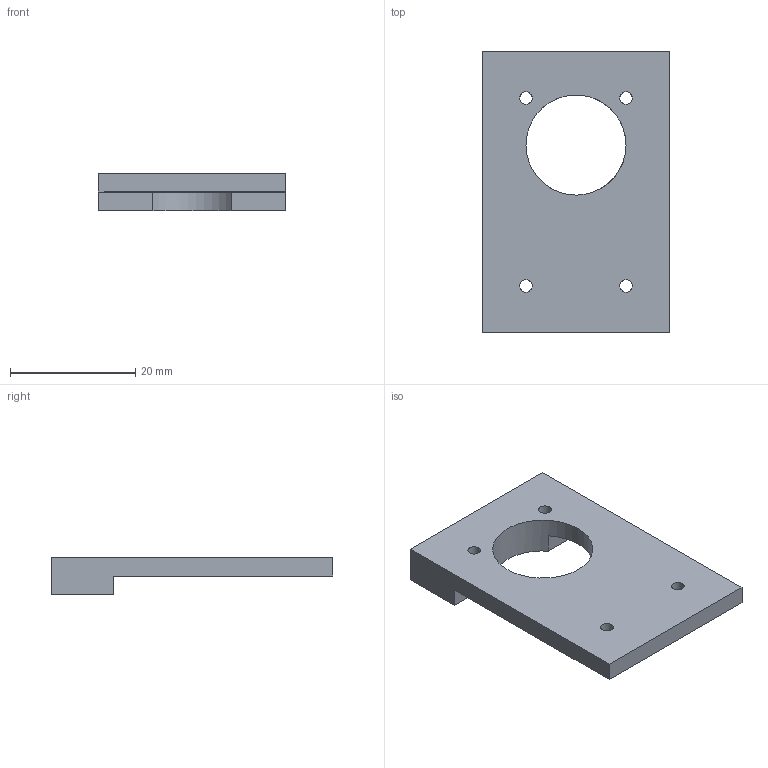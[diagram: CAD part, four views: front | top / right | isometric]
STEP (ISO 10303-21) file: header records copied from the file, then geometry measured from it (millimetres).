
FILE_DESCRIPTION (( 'STEP AP203' ), '1' );
FILE_NAME ('288嘐隅啣.STEP', '2026-09-16T03:04:00', ( '' ), ( '' ), 'SwSTEP 2.0', 'SolidWorks 2023', '' );
FILE_SCHEMA (( 'CONFIG_CONTROL_DESIGN' ));
Length unit declared in the file: millimetre
Products named in the file (1): 288固定板
Bounding box: 30 x 45 x 6 mm (x, y, z)
Volume: 4212 mm3; surface area: 3232.2 mm2
Topology: 1 solids, 1 shells, 14 faces, 39 edges, 26 vertices
Faces by surface type: plane 9, cylinder 5
Full cylindrical faces by diameter (mm): 2 x4, 16 x1
Entity records: 517 total; most frequent: DIRECTION 74, CARTESIAN_POINT 73, ORIENTED_EDGE 66, EDGE_CURVE 33, EDGE_LOOP 28, AXIS2_PLACEMENT_3D 26, VERTEX_POINT 25, LINE 22
